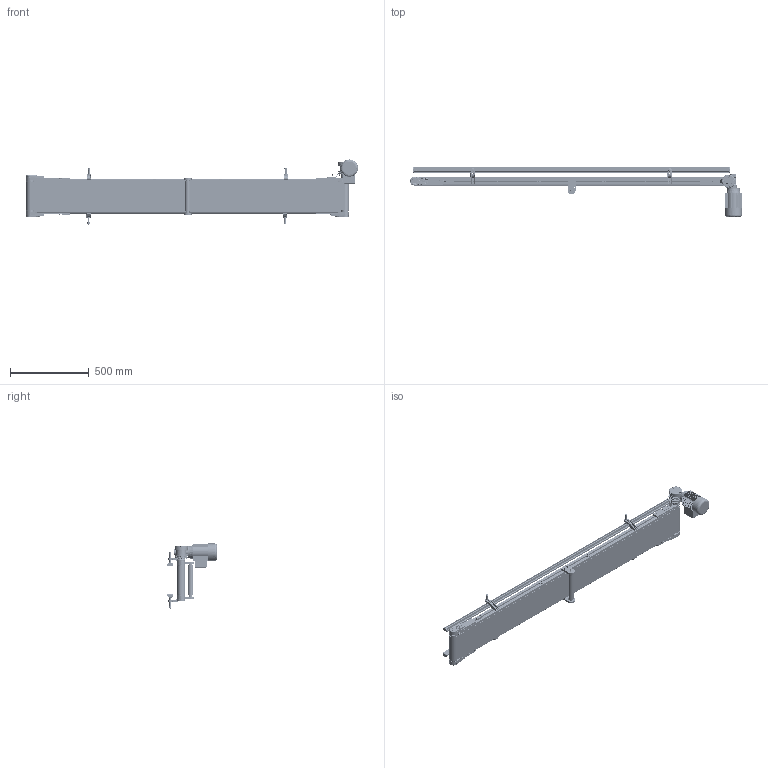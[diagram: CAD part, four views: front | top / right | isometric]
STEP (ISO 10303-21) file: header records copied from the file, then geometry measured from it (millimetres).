
FILE_DESCRIPTION (( 'STEP AP203' ), '1' );
FILE_NAME ('NASTRO_RETTILINEO_TAPPETO.step', '2026-04-22T13:43:16', ( 'Utente Windows' ), ( '' ), 'SwSTEP 2.0', 'SolidWorks 2024', '' );
FILE_SCHEMA (( 'CONFIG_CONTROL_DESIGN' ));
Length unit declared in the file: millimetre
Products named in the file (59): VITI TSEI UNI 5933_M5x12 UNI 5933; BLOCCO_BRACCIO_CH03P_VF30P; TAPPETO_STANDARD; VITI TSEI UNI 5933 INOX_0412UNI5933A2; 084.802.017_084.802.017; 084.802.065_Default<A macchina>; VITE_DADO_M5X12; RULLO_50_Default<A macchina>; BLOCCO_PERNO_50_30; 084.712.002; RULLO_REGGITAPPETO; 084.811.001; 084.802.028; 084.711.006_PER CAVA 8 PERNO ALTO 1; 084.301.000 VITI ALUSIC_084.301.003; 084.807.003_084.807.003<A macchina>; 084.802.014; VITI TCEI UNI 5931_M6x12 UNI 5931; 084.811.004; 084.711.010; LAMIERA_STANDARD; 084.711.007; VITI TSEI UNI 5933_M4x12 UNI 5933; 084.802.071; 084.802.061; BLOCCO_RINVIO_50_STANDARD; RONDELLE FASCIA LARGA UNI 6593_5.4x20 UNI 6593; CHIAVETTE_A 5x5x40 UNI 6604-69; 084.808.012; 084.802.008; 084.303.001; 084.802.062; NASTRO_RETTILINEO_TAPPETO; 084.711.006_L2; 084.802.013-2; 084.810.001; 084.711.006_L1; VITE_RONDELLA_M8X20; BLOCCO_TRAINO_50_STANDARD; 084.302.000 DADI ALUSIC 13x13-1_084.302.007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
Assembly tree (123 placements, depth 4):
  NASTRO_RETTILINEO_TAPPETO
    TAPPETO_STANDARD
    TELAIO_50_STANDARD_Default<A macchina>
    LAMIERA_STANDARD
    RULLO_50_Default<A macchina>  x2
    BLOCCO_PERNO_50_30
      084.810.001
      084.811.001
      RONDELLE FASCIA LARGA UNI 6593_5.4x20 UNI 6593
      084.301.000 VITI ALUSIC_084.301.009
      CHIAVETTE_A 5x5x40 UNI 6604-69
      CHIAVETTE_A 5x5x20 UNI 6604-69
      14UNI7435
    BLOCCO_TRAINO_50_STANDARD_30_DX
      084.807.003_084.807.003<A macchina>
      084.802.017_084.802.017
      084.301.000 VITI ALUSIC_084.301.003  x2
      084.302.000 DADI ALUSIC 13x13-1_084.302.004  x2
      BLOCCO_BRACCIO_CH03P_VF30P
        084.808.012
        084.802.062
        084.802.061
        VITI TE UNI 5739_M6x16 UNI 5739  x4
        084.803.018
        VITI TCEI UNI 5931_M6x12 UNI 5931  x4
      084.802.065_Default<A macchina>
      VITI TCEI UNI 5931_M4x25 UNI 5931  x2
    BLOCCO_PERNO_50_RINVIO  x3
      084.811.004
      084.810.001
    BLOCCO_TRAINO_50_STANDARD
      084.807.002_084.807.002
      084.802.017_084.802.017
      084.301.000 VITI ALUSIC_084.301.003  x2
      084.302.000 DADI ALUSIC 13x13-1_084.302.004  x2
      VITI TSEI UNI 5933_M4x12 UNI 5933  x4
      084.802.071
      VITI TSEI UNI 5933 INOX_0412UNI5933A2  x2
    BLOCCO_RINVIO_50_STANDARD  x2
      084.807.002_084.807.002
      084.802.017_084.802.017
      084.802.008
      084.301.000 VITI ALUSIC_084.301.003
      084.302.000 DADI ALUSIC 13x13_084.302.004
      VITI TSEI UNI 5933_M4x10 UNI 5933
      084.802.071
    SPONDA_Default<A macchina>  x2
    084.711.006_PER CAVA 8 PERNO ALTO 1  x4
      084.711.006_L1
      084.711.006_L2
      084.711.007
      084.711.005
      084.711.010
      DADI ESAGONALI NORMALI UNI 5588_M6 UNI 5588
    084.712.002  x4
    VITE_RONDELLA_M8X20  x7
      084.303.001
      084.301.000 VITI ALUSIC_084.301.003
    VITE_DADO_M5X12  x10
      084.302.000 DADI ALUSIC 13x13-1_084.302.007
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Bounding box: 2112 x 317 x 413.93 mm (x, y, z)
Volume: 9495892.9 mm3; surface area: 6521576.9 mm2
Topology: 188 solids, 196 shells, 8832 faces, 22643 edges, 14371 vertices
Faces by surface type: plane 4261, cylinder 2563, cone 727, bspline 650, torus 537, sphere 94
Entity records: 160622 total; most frequent: CARTESIAN_POINT 43997, ORIENTED_EDGE 23398, DIRECTION 22037, EDGE_CURVE 11699, AXIS2_PLACEMENT_3D 7675, VERTEX_POINT 7529, VECTOR 6687, LINE 6687
